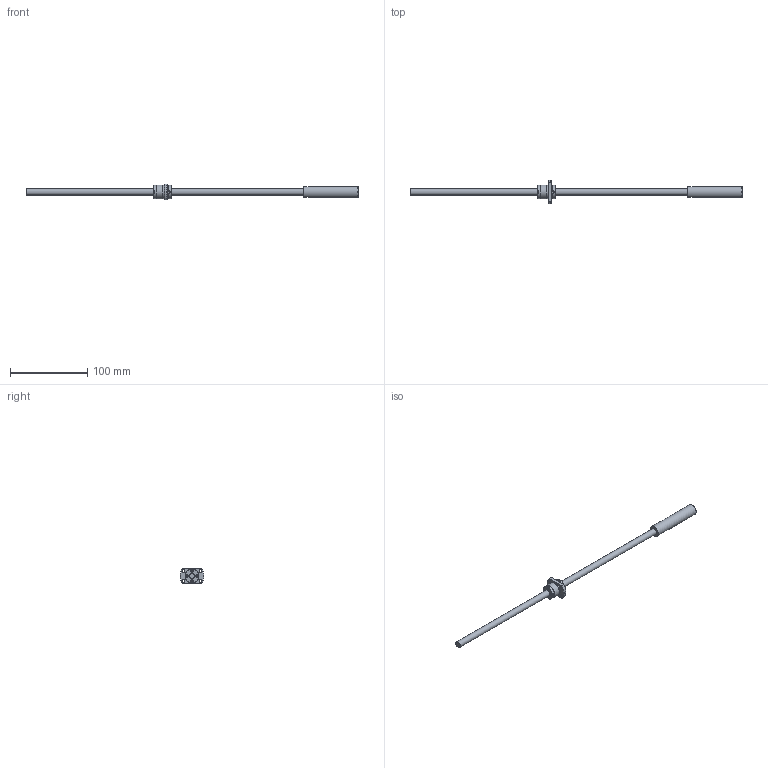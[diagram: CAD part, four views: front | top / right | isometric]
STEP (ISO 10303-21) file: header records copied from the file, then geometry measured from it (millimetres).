
FILE_DESCRIPTION(/* description */ ('STEP AP214'),/* implementation_level */ '2;1');
FILE_NAME(/* name */ 'SRT0820-356R430C7A0X(165None)',/* time_stamp */ '2026-08-04T20:07:36+02:00',/* author */ ('License CC BY-ND 4.0'),/* organization */ ('CADENAS'),/* preprocessor_version */ 'ST-DEVELOPER v20',/* originating_system */ 'PARTsolutions',/* authorisation */ ' ');
FILE_SCHEMA (('AUTOMOTIVE_DESIGN {1 0 10303 214 3 1 1}'));
Length unit declared in the file: millimetre
Products named in the file (3): SRT0820-356R430C7A0X(165None); SRT0820-356R430ACt7None54Shaft; SRT0820Nut
Assembly tree (2 placements, depth 2):
  SRT0820-356R430C7A0X(165None)
    SRT0820-356R430ACt7None54Shaft
    SRT0820Nut
Bounding box: 430 x 30.91 x 20 mm (x, y, z)
Volume: 34756.6 mm3; surface area: 15830.4 mm2
Topology: 2 solids, 2 shells, 138 faces, 332 edges, 220 vertices
Faces by surface type: plane 100, cylinder 30, cone 8
Full cylindrical faces by diameter (mm): 3 x8, 3.4 x4, 8 x2, 14.2 x1, 17.5 x2, 17.7 x1, 18 x2
Entity records: 3971 total; most frequent: CARTESIAN_POINT 689, DIRECTION 662, ORIENTED_EDGE 612, EDGE_CURVE 306, AXIS2_PLACEMENT_3D 223, VERTEX_POINT 218, LINE 216, VECTOR 216
